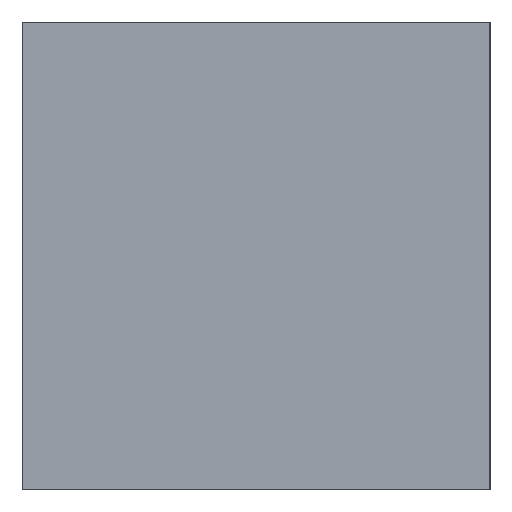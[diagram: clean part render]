
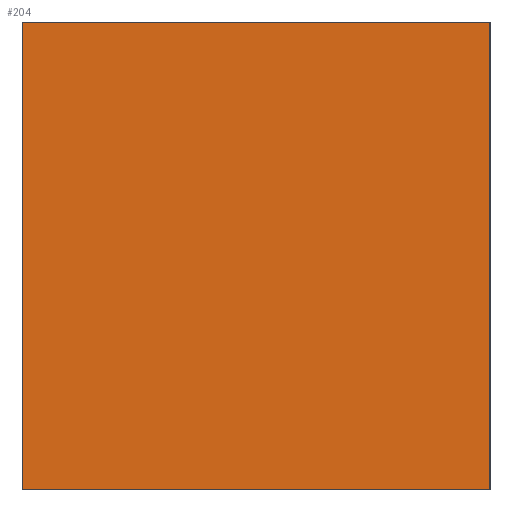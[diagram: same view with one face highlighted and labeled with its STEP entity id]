
A CAD part, left-side view. The second image highlights one B-rep face of the part: STEP entity #204.
In plain terms, the highlighted planar face has unit normal (-1, 0, 0).
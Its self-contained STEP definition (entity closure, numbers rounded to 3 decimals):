
#57=CARTESIAN_POINT('Line Origine',(-62.5,25.,0.)) ;
#61=CARTESIAN_POINT('Vertex',(-62.5,25.,-12.5)) ;
#63=CARTESIAN_POINT('Vertex',(-62.5,25.,12.5)) ;
#174=CARTESIAN_POINT('Axis2P3D Location',(-62.5,0.,-0.)) ;
#179=CARTESIAN_POINT('Line Origine',(-62.5,12.5,-12.5)) ;
#183=CARTESIAN_POINT('Vertex',(-62.5,0.,-12.5)) ;
#186=CARTESIAN_POINT('Line Origine',(-62.5,0.,0.)) ;
#190=CARTESIAN_POINT('Vertex',(-62.5,0.,12.5)) ;
#193=CARTESIAN_POINT('Line Origine',(-62.5,12.5,12.5)) ;
#58=DIRECTION('Vector Direction',(0.,0.,1.)) ;
#175=DIRECTION('Axis2P3D Direction',(1.,0.,-0.)) ;
#176=DIRECTION('Axis2P3D XDirection',(-0.,0.,-1.)) ;
#180=DIRECTION('Vector Direction',(0.,1.,0.)) ;
#187=DIRECTION('Vector Direction',(0.,0.,-1.)) ;
#194=DIRECTION('Vector Direction',(0.,-1.,0.)) ;
#177=AXIS2_PLACEMENT_3D('Plane Axis2P3D',#174,#175,#176) ;
#199=ORIENTED_EDGE('',*,*,#65,.F.) ;
#200=ORIENTED_EDGE('',*,*,#185,.F.) ;
#201=ORIENTED_EDGE('',*,*,#192,.F.) ;
#202=ORIENTED_EDGE('',*,*,#197,.F.) ;
#59=VECTOR('Line Direction',#58,1.) ;
#181=VECTOR('Line Direction',#180,1.) ;
#188=VECTOR('Line Direction',#187,1.) ;
#195=VECTOR('Line Direction',#194,1.) ;
#204=ADVANCED_FACE('760-2525125',(#203),#178,.F.) ;
#65=EDGE_CURVE('',#62,#64,#60,.T.) ;
#185=EDGE_CURVE('',#184,#62,#182,.T.) ;
#192=EDGE_CURVE('',#191,#184,#189,.T.) ;
#197=EDGE_CURVE('',#64,#191,#196,.T.) ;
#198=EDGE_LOOP('',(#199,#200,#201,#202)) ;
#203=FACE_OUTER_BOUND('',#198,.T.) ;
#60=LINE('Line',#57,#59) ;
#182=LINE('Line',#179,#181) ;
#189=LINE('Line',#186,#188) ;
#196=LINE('Line',#193,#195) ;
#178=PLANE('Plane',#177) ;
#62=VERTEX_POINT('',#61) ;
#64=VERTEX_POINT('',#63) ;
#184=VERTEX_POINT('',#183) ;
#191=VERTEX_POINT('',#190) ;
